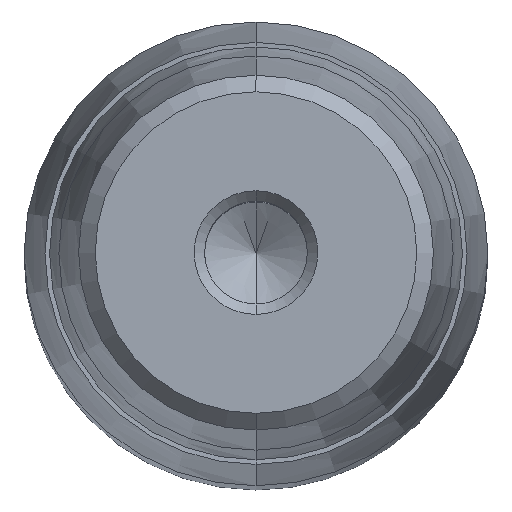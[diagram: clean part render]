
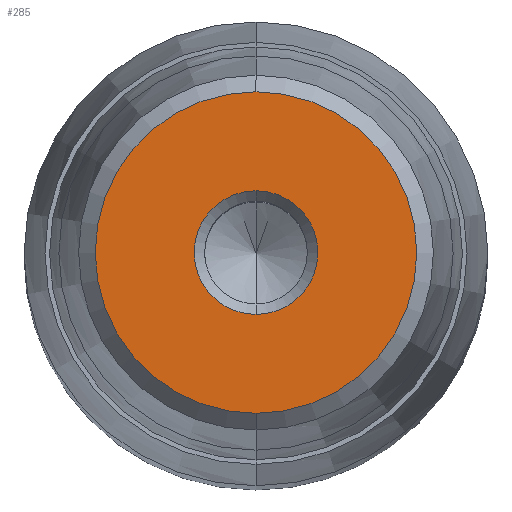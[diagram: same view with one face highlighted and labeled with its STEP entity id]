
A CAD part, top view. The second image highlights one B-rep face of the part: STEP entity #285.
In plain terms, the highlighted planar face has unit normal (0, 0, 1).
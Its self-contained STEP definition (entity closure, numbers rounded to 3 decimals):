
#164=CARTESIAN_POINT('Axis2P3D Location',(0.,0.,48.)) ;
#168=CARTESIAN_POINT('Vertex',(4.,0.,48.)) ;
#170=CARTESIAN_POINT('Vertex',(0.,-4.,48.)) ;
#173=CARTESIAN_POINT('Axis2P3D Location',(0.,0.,48.)) ;
#177=CARTESIAN_POINT('Vertex',(0.,4.,48.)) ;
#228=CARTESIAN_POINT('Axis2P3D Location',(0.,4.,48.)) ;
#233=CARTESIAN_POINT('Axis2P3D Location',(0.,0.,48.)) ;
#237=CARTESIAN_POINT('Vertex',(0.,10.4,48.)) ;
#239=CARTESIAN_POINT('Vertex',(10.4,0.,48.)) ;
#242=CARTESIAN_POINT('Axis2P3D Location',(0.,0.,48.)) ;
#246=CARTESIAN_POINT('Vertex',(-10.4,0.,48.)) ;
#249=CARTESIAN_POINT('Axis2P3D Location',(0.,0.,48.)) ;
#253=CARTESIAN_POINT('Vertex',(0.,-10.4,48.)) ;
#256=CARTESIAN_POINT('Axis2P3D Location',(0.,0.,48.)) ;
#267=CARTESIAN_POINT('Axis2P3D Location',(0.,0.,48.)) ;
#271=CARTESIAN_POINT('Vertex',(-4.,0.,48.)) ;
#274=CARTESIAN_POINT('Axis2P3D Location',(0.,0.,48.)) ;
#165=DIRECTION('Axis2P3D Direction',(-0.,0.,1.)) ;
#174=DIRECTION('Axis2P3D Direction',(-0.,0.,1.)) ;
#229=DIRECTION('Axis2P3D Direction',(0.,0.,-1.)) ;
#230=DIRECTION('Axis2P3D XDirection',(0.,1.,0.)) ;
#234=DIRECTION('Axis2P3D Direction',(0.,0.,-1.)) ;
#243=DIRECTION('Axis2P3D Direction',(0.,0.,-1.)) ;
#250=DIRECTION('Axis2P3D Direction',(0.,0.,-1.)) ;
#257=DIRECTION('Axis2P3D Direction',(0.,0.,-1.)) ;
#268=DIRECTION('Axis2P3D Direction',(0.,0.,-1.)) ;
#275=DIRECTION('Axis2P3D Direction',(0.,0.,-1.)) ;
#166=AXIS2_PLACEMENT_3D('Circle Axis2P3D',#164,#165,$) ;
#175=AXIS2_PLACEMENT_3D('Circle Axis2P3D',#173,#174,$) ;
#231=AXIS2_PLACEMENT_3D('Plane Axis2P3D',#228,#229,#230) ;
#235=AXIS2_PLACEMENT_3D('Circle Axis2P3D',#233,#234,$) ;
#244=AXIS2_PLACEMENT_3D('Circle Axis2P3D',#242,#243,$) ;
#251=AXIS2_PLACEMENT_3D('Circle Axis2P3D',#249,#250,$) ;
#258=AXIS2_PLACEMENT_3D('Circle Axis2P3D',#256,#257,$) ;
#269=AXIS2_PLACEMENT_3D('Circle Axis2P3D',#267,#268,$) ;
#276=AXIS2_PLACEMENT_3D('Circle Axis2P3D',#274,#275,$) ;
#262=ORIENTED_EDGE('',*,*,#241,.F.) ;
#263=ORIENTED_EDGE('',*,*,#248,.F.) ;
#264=ORIENTED_EDGE('',*,*,#255,.F.) ;
#265=ORIENTED_EDGE('',*,*,#260,.F.) ;
#280=ORIENTED_EDGE('',*,*,#172,.T.) ;
#281=ORIENTED_EDGE('',*,*,#273,.T.) ;
#282=ORIENTED_EDGE('',*,*,#278,.T.) ;
#283=ORIENTED_EDGE('',*,*,#179,.T.) ;
#284=FACE_BOUND('',#279,.T.) ;
#285=ADVANCED_FACE('722-30x180x213',(#266,#284),#232,.F.) ;
#167=CIRCLE('generated circle',#166,4.) ;
#176=CIRCLE('generated circle',#175,4.) ;
#236=CIRCLE('generated circle',#235,10.4) ;
#245=CIRCLE('generated circle',#244,10.4) ;
#252=CIRCLE('generated circle',#251,10.4) ;
#259=CIRCLE('generated circle',#258,10.4) ;
#270=CIRCLE('generated circle',#269,4.) ;
#277=CIRCLE('generated circle',#276,4.) ;
#172=EDGE_CURVE('',#169,#171,#167,.F.) ;
#179=EDGE_CURVE('',#178,#169,#176,.F.) ;
#241=EDGE_CURVE('',#238,#240,#236,.T.) ;
#248=EDGE_CURVE('',#247,#238,#245,.T.) ;
#255=EDGE_CURVE('',#254,#247,#252,.T.) ;
#260=EDGE_CURVE('',#240,#254,#259,.T.) ;
#273=EDGE_CURVE('',#171,#272,#270,.T.) ;
#278=EDGE_CURVE('',#272,#178,#277,.T.) ;
#261=EDGE_LOOP('',(#262,#263,#264,#265)) ;
#279=EDGE_LOOP('',(#280,#281,#282,#283)) ;
#266=FACE_OUTER_BOUND('',#261,.T.) ;
#232=PLANE('Plane',#231) ;
#169=VERTEX_POINT('',#168) ;
#171=VERTEX_POINT('',#170) ;
#178=VERTEX_POINT('',#177) ;
#238=VERTEX_POINT('',#237) ;
#240=VERTEX_POINT('',#239) ;
#247=VERTEX_POINT('',#246) ;
#254=VERTEX_POINT('',#253) ;
#272=VERTEX_POINT('',#271) ;
